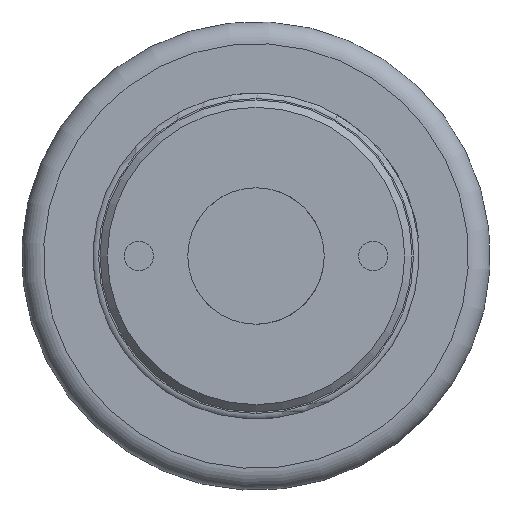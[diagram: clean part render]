
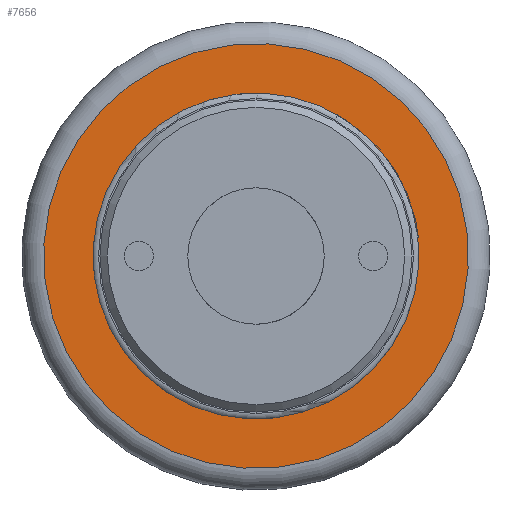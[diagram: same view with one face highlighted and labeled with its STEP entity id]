
A CAD part, front view. The second image highlights one B-rep face of the part: STEP entity #7656.
In plain terms, the highlighted planar face has unit normal (0, -1, 0).
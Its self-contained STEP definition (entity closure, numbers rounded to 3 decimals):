
#159 = CARTESIAN_POINT ( 'NONE',  ( 0., -24.404, 0. ) ) ;
#453 = VERTEX_POINT ( 'NONE', #825 ) ;
#825 = CARTESIAN_POINT ( 'NONE',  ( 0., -24.404, -22.25 ) ) ;
#2635 = CARTESIAN_POINT ( 'NONE',  ( 32., -24.404, 0. ) ) ;
#2709 = EDGE_LOOP ( 'NONE', ( #18111 ) ) ;
#3357 = VERTEX_POINT ( 'NONE', #5128 ) ;
#4671 = AXIS2_PLACEMENT_3D ( 'NONE', #159, #6121, #14165 ) ;
#5128 = CARTESIAN_POINT ( 'NONE',  ( 0., -24.404, 29. ) ) ;
#6121 = DIRECTION ( 'NONE',  ( 0., -1., 0. ) ) ;
#7181 = DIRECTION ( 'NONE',  ( 0., -1., 0. ) ) ;
#7621 = EDGE_LOOP ( 'NONE', ( #21698 ) ) ;
#7656 = ADVANCED_FACE ( 'NONE', ( #14118, #21905 ), #16416, .F. ) ;
#9089 = AXIS2_PLACEMENT_3D ( 'NONE', #2635, #17966, #22033 ) ;
#10749 = DIRECTION ( 'NONE',  ( 0., 0., 1. ) ) ;
#10986 = EDGE_CURVE ( 'NONE', #453, #453, #12005, .T. ) ;
#11820 = AXIS2_PLACEMENT_3D ( 'NONE', #16505, #7181, #10749 ) ;
#12005 = CIRCLE ( 'NONE', #4671, 22.25 ) ;
#14118 = FACE_BOUND ( 'NONE', #7621, .T. ) ;
#14165 = DIRECTION ( 'NONE',  ( 0., 0., -1. ) ) ;
#14260 = CIRCLE ( 'NONE', #11820, 29. ) ;
#16416 = PLANE ( 'NONE',  #9089 ) ;
#16505 = CARTESIAN_POINT ( 'NONE',  ( 0., -24.404, 0. ) ) ;
#17966 = DIRECTION ( 'NONE',  ( 0., 1., 0. ) ) ;
#18111 = ORIENTED_EDGE ( 'NONE', *, *, #18729, .T. ) ;
#18729 = EDGE_CURVE ( 'NONE', #3357, #3357, #14260, .T. ) ;
#21698 = ORIENTED_EDGE ( 'NONE', *, *, #10986, .F. ) ;
#21905 = FACE_OUTER_BOUND ( 'NONE', #2709, .T. ) ;
#22033 = DIRECTION ( 'NONE',  ( 0., 0., 1. ) ) ;
